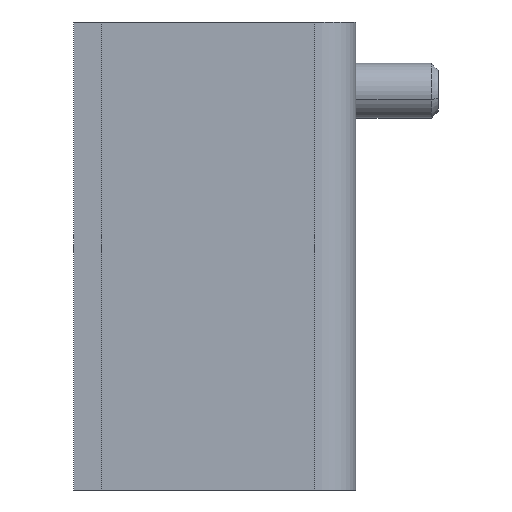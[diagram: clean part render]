
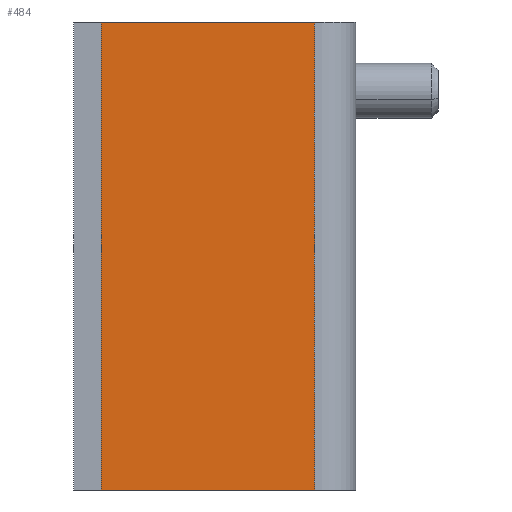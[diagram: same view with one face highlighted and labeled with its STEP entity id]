
A CAD part, left-side view. The second image highlights one B-rep face of the part: STEP entity #484.
In plain terms, the highlighted planar face has unit normal (-1, 0, 0).
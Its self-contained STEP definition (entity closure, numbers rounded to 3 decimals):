
#455 = EDGE_CURVE ( 'NONE', #456, #482, #1493, .T. ) ;
#456 = VERTEX_POINT ( 'NONE', #1488 ) ;
#468 = VERTEX_POINT ( 'NONE', #1419 ) ;
#469 = ORIENTED_EDGE ( 'NONE', *, *, #515, .F. ) ;
#470 = ORIENTED_EDGE ( 'NONE', *, *, #696, .F. ) ;
#478 = VERTEX_POINT ( 'NONE', #1412 ) ;
#482 = VERTEX_POINT ( 'NONE', #1417 ) ;
#484 = ADVANCED_FACE ( 'NONE', ( #1433 ), #1439, .T. ) ;
#515 = EDGE_CURVE ( 'NONE', #468, #482, #1535, .T. ) ;
#516 = EDGE_LOOP ( 'NONE', ( #469, #470, #566, #695 ) ) ;
#563 = EDGE_CURVE ( 'NONE', #478, #456, #1626, .T. ) ;
#566 = ORIENTED_EDGE ( 'NONE', *, *, #563, .T. ) ;
#695 = ORIENTED_EDGE ( 'NONE', *, *, #455, .T. ) ;
#696 = EDGE_CURVE ( 'NONE', #478, #468, #1784, .T. ) ;
#1412 = CARTESIAN_POINT ( 'NONE',  ( -2.5, 0.5, 34. ) ) ;
#1417 = CARTESIAN_POINT ( 'NONE',  ( -2.5, 16., 0. ) ) ;
#1419 = CARTESIAN_POINT ( 'NONE',  ( -2.5, 0.5, 0. ) ) ;
#1426 = CARTESIAN_POINT ( 'NONE',  ( -2.5, 0., 34. ) ) ;
#1433 = FACE_OUTER_BOUND ( 'NONE', #516, .T. ) ;
#1439 = PLANE ( 'NONE',  #1572 ) ;
#1478 = DIRECTION ( 'NONE',  ( 0., 0., -1. ) ) ;
#1479 = VECTOR ( 'NONE', #1478, 1000. ) ;
#1488 = CARTESIAN_POINT ( 'NONE',  ( -2.5, 16., 34. ) ) ;
#1492 = CARTESIAN_POINT ( 'NONE',  ( -2.5, 16., 34. ) ) ;
#1493 = LINE ( 'NONE', #1492, #1479 ) ;
#1532 = DIRECTION ( 'NONE',  ( 0., 1., 0. ) ) ;
#1533 = VECTOR ( 'NONE', #1532, 1000. ) ;
#1534 = CARTESIAN_POINT ( 'NONE',  ( -2.5, 0., 0. ) ) ;
#1535 = LINE ( 'NONE', #1534, #1533 ) ;
#1566 = DIRECTION ( 'NONE',  ( 0., 0., 1. ) ) ;
#1572 = AXIS2_PLACEMENT_3D ( 'NONE', #1426, #1575, #1566 ) ;
#1575 = DIRECTION ( 'NONE',  ( -1., 0., 0. ) ) ;
#1623 = DIRECTION ( 'NONE',  ( 0., 1., 0. ) ) ;
#1624 = VECTOR ( 'NONE', #1623, 1000. ) ;
#1625 = CARTESIAN_POINT ( 'NONE',  ( -2.5, 0., 34. ) ) ;
#1626 = LINE ( 'NONE', #1625, #1624 ) ;
#1781 = DIRECTION ( 'NONE',  ( 0., 0., -1. ) ) ;
#1782 = VECTOR ( 'NONE', #1781, 1000. ) ;
#1783 = CARTESIAN_POINT ( 'NONE',  ( -2.5, 0.5, 34. ) ) ;
#1784 = LINE ( 'NONE', #1783, #1782 ) ;
